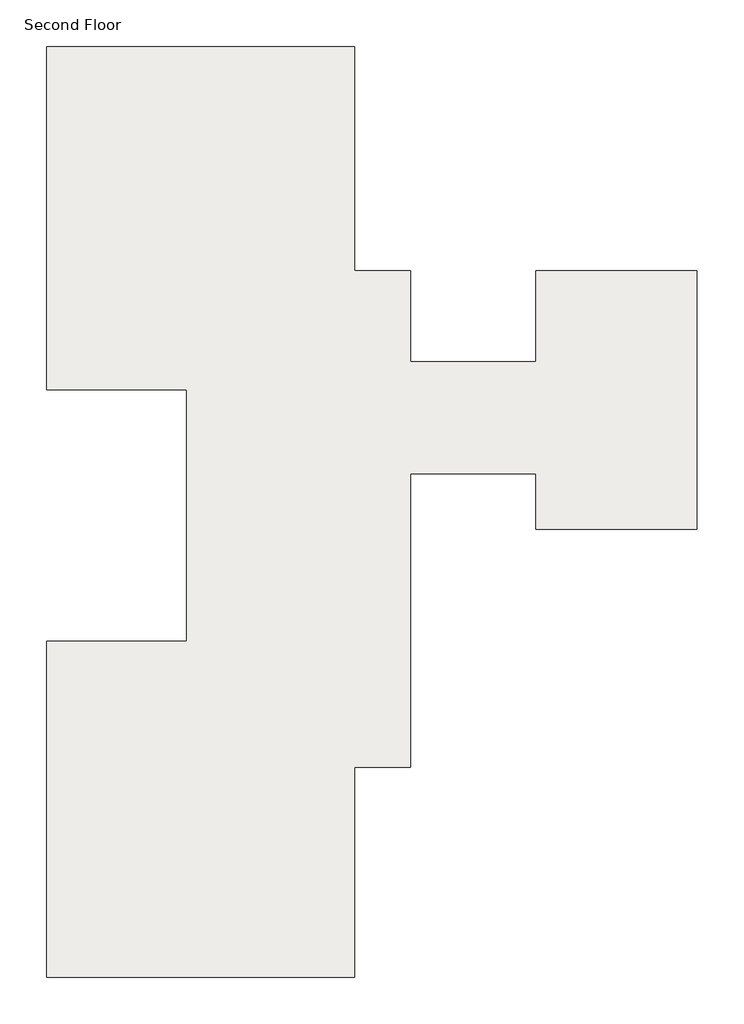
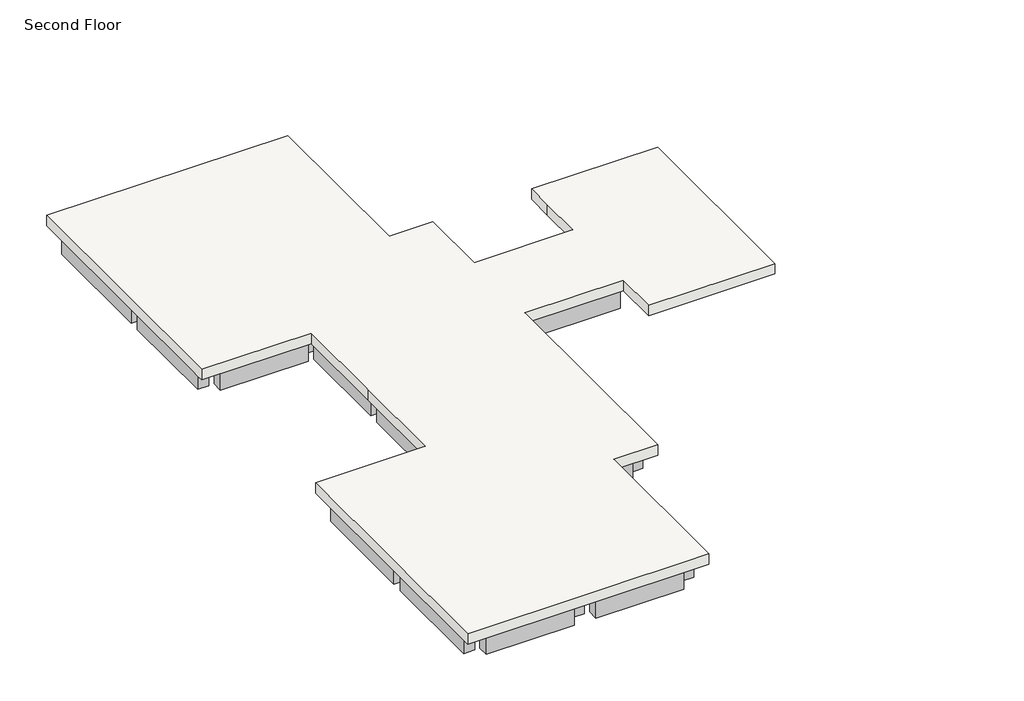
# One storey: 37 beams, 1 slab.
"""IFC4 building model written with IfcOpenShell, lengths in millimetres."""

from ifc_helpers import new_model, si_unit, frame, origin, place, context, project, spatial, polyline, outline, extrude, faceted_brep, element, save

model = new_model("IFC4")

# Units and contexts
model_context = context("Model", 3, world=origin())
ifc_project = project(units=[si_unit("LENGTHUNIT", "METRE", prefix="MILLI")], contexts=[model_context])

# Site, building, storey
site = spatial("IfcSite", under=ifc_project)
building = spatial("IfcBuilding", under=site)
storey = spatial("IfcBuildingStorey", under=building, Name="Second Floor", Elevation=3810.0)

# Beams
placement = place(None, origin())
element("IfcBeam", 1, ObjectType="Concrete-Rectangular Beam : 12 x 24", at=placement, inside=storey, context=model_context, shape_type="SweptSolid", body=[
    extrude(outline(polyline([(-12629.5554735, 14646.9867088), (-12629.5554735, 14342.1867088), (-15067.9554735, 14342.1867088), (-15067.9554735, 14646.9867088), (-12629.5554735, 14646.9867088)])), frame((0.0, 0.0, 2895.6), z_axis=(0.0, 0.0, 1.0), x_axis=(1.0, 0.0, 0.0)), (0.0, 0.0, 1.0), 609.6),
])
element("IfcBeam", 2, ObjectType="Concrete-Rectangular Beam : 12 x 24", at=placement, inside=storey, context=model_context, shape_type="SweptSolid", body=[
    extrude(outline(polyline([(-9581.5554735, 14646.9867088), (-9581.5554735, 14342.1867088), (-12019.9554735, 14342.1867088), (-12019.9554735, 14646.9867088), (-9581.5554735, 14646.9867088)])), frame((0.0, 0.0, 2895.6), z_axis=(0.0, 0.0, 1.0), x_axis=(1.0, 0.0, 0.0)), (0.0, 0.0, 1.0), 609.6),
])
element("IfcBeam", 3, ObjectType="Concrete-Rectangular Beam : 12 x 24", at=placement, inside=storey, context=model_context, shape_type="SweptSolid", body=[
    extrude(outline(polyline([(-15525.1554735, 14342.1867088), (-15220.3554735, 14342.1867088), (-15220.3554735, 10989.3867088), (-15525.1554735, 10989.3867088), (-15525.1554735, 14342.1867088)])), frame((0.0, 0.0, 2895.6), z_axis=(0.0, 0.0, 1.0), x_axis=(1.0, 0.0, 0.0)), (0.0, 0.0, 1.0), 609.6),
])
element("IfcBeam", 4, ObjectType="Concrete-Rectangular Beam : 12 x 24", at=placement, inside=storey, context=model_context, shape_type="SweptSolid", body=[
    extrude(outline(polyline([(-12629.5554735, 10989.3867088), (-12629.5554735, 10684.5867088), (-15067.9554735, 10684.5867088), (-15067.9554735, 10989.3867088), (-12629.5554735, 10989.3867088)])), frame((0.0, 0.0, 2895.6), z_axis=(0.0, 0.0, 1.0), x_axis=(1.0, 0.0, 0.0)), (0.0, 0.0, 1.0), 609.6),
])
element("IfcBeam", 5, ObjectType="Concrete-Rectangular Beam : 12 x 24", at=placement, inside=storey, context=model_context, shape_type="SweptSolid", body=[
    extrude(outline(polyline([(-12019.9554735, 10684.5867088), (-12019.9554735, 10989.3867088), (-9581.5554735, 10989.3867088), (-9581.5554735, 10684.5867088), (-12019.9554735, 10684.5867088)])), frame((0.0, 0.0, 2895.6), z_axis=(0.0, 0.0, 1.0), x_axis=(1.0, 0.0, 0.0)), (0.0, 0.0, 1.0), 609.6),
])
element("IfcBeam", 6, ObjectType="Concrete-Rectangular Beam : 12 x 24", at=placement, inside=storey, context=model_context, shape_type="SweptSolid", body=[
    extrude(outline(polyline([(-12172.3554735, 10989.3867088), (-12477.1554735, 10989.3867088), (-12477.1554735, 14342.1867088), (-12172.3554735, 14342.1867088), (-12172.3554735, 10989.3867088)])), frame((0.0, 0.0, 2895.6), z_axis=(0.0, 0.0, 1.0), x_axis=(1.0, 0.0, 0.0)), (0.0, 0.0, 1.0), 609.6),
])
element("IfcBeam", 7, ObjectType="Concrete-Rectangular Beam : 12 x 24", at=placement, inside=storey, context=model_context, shape_type="SweptSolid", body=[
    extrude(outline(polyline([(-9124.3554735, 10989.3867088), (-9429.1554735, 10989.3867088), (-9429.1554735, 14342.1867088), (-9124.3554735, 14342.1867088), (-9124.3554735, 10989.3867088)])), frame((0.0, 0.0, 2895.6), z_axis=(0.0, 0.0, 1.0), x_axis=(1.0, 0.0, 0.0)), (0.0, 0.0, 1.0), 609.6),
])
element("IfcBeam", 8, ObjectType="Concrete-Rectangular Beam : 12 x 24", at=placement, inside=storey, context=model_context, shape_type="Brep", body=[
    faceted_brep([(-9124.3554735, 10684.5867088, 3505.2), (-9429.1554735, 10684.5867088, 3505.2), (-9429.1554735, 9465.3867088, 3505.2), (-9124.3554735, 9465.3867088, 3505.2), (-9124.3554735, 9770.1867088, 3505.2), (-9429.1554735, 10684.5867088, 2895.6), (-9429.1554735, 9465.3867088, 2895.6), (-9124.3554735, 10684.5867088, 2895.6), (-9124.3554735, 9770.1867088, 2895.6), (-9124.3554735, 9465.3867088, 2895.6)], [[[0, 1, 2, 3, 4]], [[1, 5, 6, 2]], [[5, 7, 8, 9, 6]], [[7, 0, 4, 3, 9, 8]], [[0, 7, 5, 1]], [[3, 2, 6, 9]]]),
])
element("IfcBeam", 9, ObjectType="Concrete-Rectangular Beam : 12 x 24", at=placement, inside=storey, context=model_context, shape_type="SweptSolid", body=[
    extrude(outline(polyline([(-8362.3554735, 9770.1867088), (-8362.3554735, 9465.3867088), (-9124.3554735, 9465.3867088), (-9124.3554735, 9770.1867088), (-8362.3554735, 9770.1867088)])), frame((0.0, 0.0, 2895.6), z_axis=(0.0, 0.0, 1.0), x_axis=(1.0, 0.0, 0.0)), (0.0, 0.0, 1.0), 609.6),
])
element("IfcBeam", 10, ObjectType="Concrete-Rectangular Beam : 12 x 24", at=placement, inside=storey, context=model_context, shape_type="SweptSolid", body=[
    extrude(outline(polyline([(-7905.1554735, 7788.9867088), (-8209.9554735, 7788.9867088), (-8209.9554735, 9465.3867088), (-7905.1554735, 9465.3867088), (-7905.1554735, 7788.9867088)])), frame((0.0, 0.0, 2895.6), z_axis=(0.0, 0.0, 1.0), x_axis=(1.0, 0.0, 0.0)), (0.0, 0.0, 1.0), 609.6),
])
element("IfcBeam", 11, ObjectType="Concrete-Rectangular Beam : 12 x 24", at=placement, inside=storey, context=model_context, shape_type="SweptSolid", body=[
    extrude(outline(polyline([(-7752.7554735, 7484.1867088), (-7752.7554735, 7788.9867088), (-5009.5554735, 7788.9867088), (-5009.5554735, 7484.1867088), (-7752.7554735, 7484.1867088)])), frame((0.0, 0.0, 2895.6), z_axis=(0.0, 0.0, 1.0), x_axis=(1.0, 0.0, 0.0)), (0.0, 0.0, 1.0), 609.6),
])
element("IfcBeam", 12, ObjectType="Concrete-Rectangular Beam : 12 x 24", at=placement, inside=storey, context=model_context, shape_type="SweptSolid", body=[
    extrude(outline(polyline([(-2113.9554735, 7788.9867088), (-2113.9554735, 7484.1867088), (-4399.9554735, 7484.1867088), (-4399.9554735, 7788.9867088), (-2113.9554735, 7788.9867088)])), frame((0.0, 0.0, 2895.6), z_axis=(0.0, 0.0, 1.0), x_axis=(1.0, 0.0, 0.0)), (0.0, 0.0, 1.0), 609.6),
])
element("IfcBeam", 13, ObjectType="Concrete-Rectangular Beam : 12 x 24", at=placement, inside=storey, context=model_context, shape_type="SweptSolid", body=[
    extrude(outline(polyline([(-4399.9554735, 5655.3867088), (-4399.9554735, 5960.1867088), (-2113.9554735, 5960.1867088), (-2113.9554735, 5655.3867088), (-4399.9554735, 5655.3867088)])), frame((0.0, 0.0, 2895.6), z_axis=(0.0, 0.0, 1.0), x_axis=(1.0, 0.0, 0.0)), (0.0, 0.0, 1.0), 609.6),
])
element("IfcBeam", 14, ObjectType="Concrete-Rectangular Beam : 12 x 24", at=placement, inside=storey, context=model_context, shape_type="SweptSolid", body=[
    extrude(outline(polyline([(-5009.5554735, 5960.1867088), (-5009.5554735, 5655.3867088), (-7905.1554735, 5655.3867088), (-7905.1554735, 5960.1867088), (-5009.5554735, 5960.1867088)])), frame((0.0, 0.0, 2895.6), z_axis=(0.0, 0.0, 1.0), x_axis=(1.0, 0.0, 0.0)), (0.0, 0.0, 1.0), 609.6),
])
element("IfcBeam", 15, ObjectType="Concrete-Rectangular Beam : 12 x 24", at=placement, inside=storey, context=model_context, shape_type="Brep", body=[
    faceted_brep([(-8209.9554735, 4740.9867088, 3505.2), (-7905.1554735, 4740.9867088, 3505.2), (-7905.1554735, 5655.3867088, 3505.2), (-7905.1554735, 5960.1867088, 3505.2), (-7905.1554735, 7484.1867088, 3505.2), (-8209.9554735, 7484.1867088, 3505.2), (-8209.9554735, 4740.9867088, 2895.6), (-8209.9554735, 7484.1867088, 2895.6), (-7905.1554735, 4740.9867088, 2895.6), (-7905.1554735, 7484.1867088, 2895.6), (-7905.1554735, 5960.1867088, 2895.6), (-7905.1554735, 5655.3867088, 2895.6)], [[[0, 1, 2, 3, 4, 5]], [[6, 0, 5, 7]], [[8, 6, 7, 9, 10, 11]], [[1, 8, 11, 10, 9, 4, 3, 2]], [[4, 9, 7, 5]], [[1, 0, 6, 8]]]),
])
element("IfcBeam", 16, ObjectType="Concrete-Rectangular Beam : 12 x 24", at=placement, inside=storey, context=model_context, shape_type="SweptSolid", body=[
    extrude(outline(polyline([(-12629.5554735, -5012.6132912), (-12629.5554735, -5317.4132912), (-15067.9554735, -5317.4132912), (-15067.9554735, -5012.6132912), (-12629.5554735, -5012.6132912)])), frame((0.0, 0.0, 2895.6), z_axis=(0.0, 0.0, 1.0), x_axis=(1.0, 0.0, 0.0)), (0.0, 0.0, 1.0), 609.6),
])
element("IfcBeam", 17, ObjectType="Concrete-Rectangular Beam : 12 x 24", at=placement, inside=storey, context=model_context, shape_type="SweptSolid", body=[
    extrude(outline(polyline([(-15525.1554735, -1964.6132912), (-15220.3554735, -1964.6132912), (-15220.3554735, -5012.6132912), (-15525.1554735, -5012.6132912), (-15525.1554735, -1964.6132912)])), frame((0.0, 0.0, 2895.6), z_axis=(0.0, 0.0, 1.0), x_axis=(1.0, 0.0, 0.0)), (0.0, 0.0, 1.0), 609.6),
])
element("IfcBeam", 18, ObjectType="Concrete-Rectangular Beam : 12 x 24", at=placement, inside=storey, context=model_context, shape_type="SweptSolid", body=[
    extrude(outline(polyline([(-15067.9554735, -1964.6132912), (-15067.9554735, -1659.8132912), (-12629.5554735, -1659.8132912), (-12629.5554735, -1964.6132912), (-15067.9554735, -1964.6132912)])), frame((0.0, 0.0, 2895.6), z_axis=(0.0, 0.0, 1.0), x_axis=(1.0, 0.0, 0.0)), (0.0, 0.0, 1.0), 609.6),
])
element("IfcBeam", 19, ObjectType="Concrete-Rectangular Beam : 12 x 24", at=placement, inside=storey, context=model_context, shape_type="SweptSolid", body=[
    extrude(outline(polyline([(-12172.3554735, -5012.6132912), (-12477.1554735, -5012.6132912), (-12477.1554735, -1964.6132912), (-12172.3554735, -1964.6132912), (-12172.3554735, -5012.6132912)])), frame((0.0, 0.0, 2895.6), z_axis=(0.0, 0.0, 1.0), x_axis=(1.0, 0.0, 0.0)), (0.0, 0.0, 1.0), 609.6),
])
element("IfcBeam", 20, ObjectType="Concrete-Rectangular Beam : 12 x 24", at=placement, inside=storey, context=model_context, shape_type="SweptSolid", body=[
    extrude(outline(polyline([(-9581.5554735, -5012.6132912), (-9581.5554735, -5317.4132912), (-12019.9554735, -5317.4132912), (-12019.9554735, -5012.6132912), (-9581.5554735, -5012.6132912)])), frame((0.0, 0.0, 2895.6), z_axis=(0.0, 0.0, 1.0), x_axis=(1.0, 0.0, 0.0)), (0.0, 0.0, 1.0), 609.6),
])
element("IfcBeam", 21, ObjectType="Concrete-Rectangular Beam : 12 x 24", at=placement, inside=storey, context=model_context, shape_type="SweptSolid", body=[
    extrude(outline(polyline([(-9124.3554735, -5012.6132912), (-9429.1554735, -5012.6132912), (-9429.1554735, -1964.6132912), (-9124.3554735, -1964.6132912), (-9124.3554735, -5012.6132912)])), frame((0.0, 0.0, 2895.6), z_axis=(0.0, 0.0, 1.0), x_axis=(1.0, 0.0, 0.0)), (0.0, 0.0, 1.0), 609.6),
])
element("IfcBeam", 22, ObjectType="Concrete-Rectangular Beam : 12 x 24", at=placement, inside=storey, context=model_context, shape_type="SweptSolid", body=[
    extrude(outline(polyline([(-9581.5554735, -1659.8132912), (-9581.5554735, -1964.6132912), (-12019.9554735, -1964.6132912), (-12019.9554735, -1659.8132912), (-9581.5554735, -1659.8132912)])), frame((0.0, 0.0, 2895.6), z_axis=(0.0, 0.0, 1.0), x_axis=(1.0, 0.0, 0.0)), (0.0, 0.0, 1.0), 609.6),
])
element("IfcBeam", 23, ObjectType="Concrete-Rectangular Beam : 12 x 24", at=placement, inside=storey, context=model_context, shape_type="Brep", body=[
    faceted_brep([(-8362.3554735, -745.4132912, 3505.2), (-8362.3554735, -440.6132912, 3505.2), (-9429.1554735, -440.6132912, 3505.2), (-9429.1554735, -745.4132912, 3505.2), (-9124.3554735, -745.4132912, 3505.2), (-8362.3554735, -440.6132912, 2895.6), (-9429.1554735, -440.6132912, 2895.6), (-8362.3554735, -745.4132912, 2895.6), (-9124.3554735, -745.4132912, 2895.6), (-9429.1554735, -745.4132912, 2895.6)], [[[0, 1, 2, 3, 4]], [[1, 5, 6, 2]], [[5, 7, 8, 9, 6]], [[7, 0, 4, 3, 9, 8]], [[0, 7, 5, 1]], [[3, 2, 6, 9]]]),
])
element("IfcBeam", 24, ObjectType="Concrete-Rectangular Beam : 12 x 24", at=placement, inside=storey, context=model_context, shape_type="SweptSolid", body=[
    extrude(outline(polyline([(-9124.3554735, -1659.8132912), (-9429.1554735, -1659.8132912), (-9429.1554735, -745.4132912), (-9124.3554735, -745.4132912), (-9124.3554735, -1659.8132912)])), frame((0.0, 0.0, 2895.6), z_axis=(0.0, 0.0, 1.0), x_axis=(1.0, 0.0, 0.0)), (0.0, 0.0, 1.0), 609.6),
])
element("IfcBeam", 25, ObjectType="Concrete-Rectangular Beam : 12 x 24", at=placement, inside=storey, context=model_context, shape_type="SweptSolid", body=[
    extrude(outline(polyline([(-8209.9554735, 1388.1867088), (-7905.1554735, 1388.1867088), (-7905.1554735, -440.6132912), (-8209.9554735, -440.6132912), (-8209.9554735, 1388.1867088)])), frame((0.0, 0.0, 2895.6), z_axis=(0.0, 0.0, 1.0), x_axis=(1.0, 0.0, 0.0)), (0.0, 0.0, 1.0), 609.6),
])
element("IfcBeam", 26, ObjectType="Concrete-Rectangular Beam : 12 x 24", at=placement, inside=storey, context=model_context, shape_type="SweptSolid", body=[
    extrude(outline(polyline([(-7905.1554735, 1692.9867088), (-8209.9554735, 1692.9867088), (-8209.9554735, 4436.1867088), (-7905.1554735, 4436.1867088), (-7905.1554735, 1692.9867088)])), frame((0.0, 0.0, 2895.6), z_axis=(0.0, 0.0, 1.0), x_axis=(1.0, 0.0, 0.0)), (0.0, 0.0, 1.0), 609.6),
])
element("IfcBeam", 27, ObjectType="Concrete-Rectangular Beam : 12 x 24", at=placement, inside=storey, context=model_context, shape_type="SweptSolid", body=[
    extrude(outline(polyline([(-15525.1554735, 1388.1867088), (-15220.3554735, 1388.1867088), (-15220.3554735, -1659.8132912), (-15525.1554735, -1659.8132912), (-15525.1554735, 1388.1867088)])), frame((0.0, 0.0, 2895.6), z_axis=(0.0, 0.0, 1.0), x_axis=(1.0, 0.0, 0.0)), (0.0, 0.0, 1.0), 609.6),
])
element("IfcBeam", 28, ObjectType="Concrete-Rectangular Beam : 12 x 24", at=placement, inside=storey, context=model_context, shape_type="SweptSolid", body=[
    extrude(outline(polyline([(-12629.5554735, 1692.9867088), (-12629.5554735, 1388.1867088), (-15067.9554735, 1388.1867088), (-15067.9554735, 1692.9867088), (-12629.5554735, 1692.9867088)])), frame((0.0, 0.0, 2895.6), z_axis=(0.0, 0.0, 1.0), x_axis=(1.0, 0.0, 0.0)), (0.0, 0.0, 1.0), 609.6),
])
element("IfcBeam", 29, ObjectType="Concrete-Rectangular Beam : 12 x 24", at=placement, inside=storey, context=model_context, shape_type="SweptSolid", body=[
    extrude(outline(polyline([(-12172.3554735, -1659.8132912), (-12477.1554735, -1659.8132912), (-12477.1554735, 1388.1867088), (-12172.3554735, 1388.1867088), (-12172.3554735, -1659.8132912)])), frame((0.0, 0.0, 2895.6), z_axis=(0.0, 0.0, 1.0), x_axis=(1.0, 0.0, 0.0)), (0.0, 0.0, 1.0), 609.6),
])
element("IfcBeam", 30, ObjectType="Concrete-Rectangular Beam : 12 x 24", at=placement, inside=storey, context=model_context, shape_type="SweptSolid", body=[
    extrude(outline(polyline([(-12019.9554735, 1388.1867088), (-12019.9554735, 1692.9867088), (-8362.3554735, 1692.9867088), (-8362.3554735, 1388.1867088), (-12019.9554735, 1388.1867088)])), frame((0.0, 0.0, 2895.6), z_axis=(0.0, 0.0, 1.0), x_axis=(1.0, 0.0, 0.0)), (0.0, 0.0, 1.0), 609.6),
])
element("IfcBeam", 31, ObjectType="Concrete-Rectangular Beam : 12 x 24", at=placement, inside=storey, context=model_context, shape_type="SweptSolid", body=[
    extrude(outline(polyline([(-12172.3554735, 1692.9867088), (-12477.1554735, 1692.9867088), (-12477.1554735, 4436.1867088), (-12172.3554735, 4436.1867088), (-12172.3554735, 1692.9867088)])), frame((0.0, 0.0, 2895.6), z_axis=(0.0, 0.0, 1.0), x_axis=(1.0, 0.0, 0.0)), (0.0, 0.0, 1.0), 609.6),
])
element("IfcBeam", 32, ObjectType="Concrete-Rectangular Beam : 12 x 24", at=placement, inside=storey, context=model_context, shape_type="SweptSolid", body=[
    extrude(outline(polyline([(-12019.9554735, 4436.1867088), (-12019.9554735, 4740.9867088), (-8362.3554735, 4740.9867088), (-8362.3554735, 4436.1867088), (-12019.9554735, 4436.1867088)])), frame((0.0, 0.0, 2895.6), z_axis=(0.0, 0.0, 1.0), x_axis=(1.0, 0.0, 0.0)), (0.0, 0.0, 1.0), 609.6),
])
element("IfcBeam", 33, ObjectType="Concrete-Rectangular Beam : 12 x 24", at=placement, inside=storey, context=model_context, shape_type="SweptSolid", body=[
    extrude(outline(polyline([(-15220.3554735, 7788.9867088), (-15525.1554735, 7788.9867088), (-15525.1554735, 10684.5867088), (-15220.3554735, 10684.5867088), (-15220.3554735, 7788.9867088)])), frame((0.0, 0.0, 2895.6), z_axis=(0.0, 0.0, 1.0), x_axis=(1.0, 0.0, 0.0)), (0.0, 0.0, 1.0), 609.6),
])
element("IfcBeam", 34, ObjectType="Concrete-Rectangular Beam : 12 x 24", at=placement, inside=storey, context=model_context, shape_type="SweptSolid", body=[
    extrude(outline(polyline([(-12172.3554735, 7788.9867088), (-12477.1554735, 7788.9867088), (-12477.1554735, 10684.5867088), (-12172.3554735, 10684.5867088), (-12172.3554735, 7788.9867088)])), frame((0.0, 0.0, 2895.6), z_axis=(0.0, 0.0, 1.0), x_axis=(1.0, 0.0, 0.0)), (0.0, 0.0, 1.0), 609.6),
])
element("IfcBeam", 35, ObjectType="Concrete-Rectangular Beam : 12 x 24", at=placement, inside=storey, context=model_context, shape_type="SweptSolid", body=[
    extrude(outline(polyline([(-12019.9554735, 7484.1867088), (-12019.9554735, 7788.9867088), (-8362.3554735, 7788.9867088), (-8362.3554735, 7484.1867088), (-12019.9554735, 7484.1867088)])), frame((0.0, 0.0, 2895.6), z_axis=(0.0, 0.0, 1.0), x_axis=(1.0, 0.0, 0.0)), (0.0, 0.0, 1.0), 609.6),
])
element("IfcBeam", 36, ObjectType="Concrete-Rectangular Beam : 12 x 24", at=placement, inside=storey, context=model_context, shape_type="SweptSolid", body=[
    extrude(outline(polyline([(-12477.1554735, 7484.1867088), (-12172.3554735, 7484.1867088), (-12172.3554735, 4740.9867088), (-12477.1554735, 4740.9867088), (-12477.1554735, 7484.1867088)])), frame((0.0, 0.0, 2895.6), z_axis=(0.0, 0.0, 1.0), x_axis=(1.0, 0.0, 0.0)), (0.0, 0.0, 1.0), 609.6),
])
element("IfcBeam", 37, ObjectType="Concrete-Rectangular Beam : 12 x 24", at=placement, inside=storey, context=model_context, shape_type="SweptSolid", body=[
    extrude(outline(polyline([(-15067.9554735, 7484.1867088), (-15067.9554735, 7788.9867088), (-12629.5554735, 7788.9867088), (-12629.5554735, 7484.1867088), (-15067.9554735, 7484.1867088)])), frame((0.0, 0.0, 2895.6), z_axis=(0.0, 0.0, 1.0), x_axis=(1.0, 0.0, 0.0)), (0.0, 0.0, 1.0), 609.6),
])

# Slab
element("IfcSlab", 38, ObjectType="Generic - 12\"", at=placement, inside=storey, context=model_context, shape_type="Brep", body=[
    faceted_brep([(-8971.9554735, 14799.3867088, 3505.2), (-8971.9554735, 14646.9867088, 3505.2), (-8971.9554735, 14342.1867088, 3505.2), (-8971.9554735, 10989.3867088, 3505.2), (-8971.9554735, 10684.5867088, 3505.2), (-8971.9554735, 9922.5867088, 3505.2), (-7752.7554735, 9922.5867088, 3505.2), (-7752.7554735, 9770.1867088, 3505.2), (-7752.7554735, 9465.3867088, 3505.2), (-7752.7554735, 7941.3867088, 3505.2), (-5009.5554735, 7941.3867088, 3505.2), (-5009.5554735, 9160.5867088, 3505.2), (-5009.5554735, 9922.5867088, 3505.2), (-1504.3554735, 9922.5867088, 3505.2), (-1504.3554735, 7788.9867088, 3505.2), (-1504.3554735, 7484.1867088, 3505.2), (-1504.3554735, 5960.1867088, 3505.2), (-1504.3554735, 5655.3867088, 3505.2), (-1504.3554735, 4283.7867088, 3505.2), (-5009.5554735, 4283.7867088, 3505.2), (-5009.5554735, 5502.9867088, 3505.2), (-7752.7554735, 5502.9867088, 3505.2), (-7752.7554735, 4740.9867088, 3505.2), (-7752.7554735, 4436.1867088, 3505.2), (-7752.7554735, 1692.9867088, 3505.2), (-7752.7554735, 1388.1867088, 3505.2), (-7752.7554735, -440.6132912, 3505.2), (-7752.7554735, -745.4132912, 3505.2), (-7752.7554735, -897.8132912, 3505.2), (-8971.9554735, -897.8132912, 3505.2), (-8971.9554735, -1659.8132912, 3505.2), (-8971.9554735, -1964.6132912, 3505.2), (-8971.9554735, -5012.6132912, 3505.2), (-8971.9554735, -5317.4132912, 3505.2), (-8971.9554735, -5469.8132912, 3505.2), (-15677.5554735, -5469.8132912, 3505.2), (-15677.5554735, -5317.4132912, 3505.2), (-15677.5554735, -5012.6132912, 3505.2), (-15677.5554735, -1964.6132912, 3505.2), (-15677.5554735, -1659.8132912, 3505.2), (-15677.5554735, 1388.1867088, 3505.2), (-15677.5554735, 1692.9867088, 3505.2), (-15677.5554735, 1845.3867088, 3505.2), (-12629.5554735, 1845.3867088, 3505.2), (-12629.5554735, 4436.1867088, 3505.2), (-12629.5554735, 4588.5867088, 3505.2), (-12629.5554735, 4740.9867088, 3505.2), (-12629.5554735, 7331.7867088, 3505.2), (-15677.5554735, 7331.7867088, 3505.2), (-15677.5554735, 7484.1867088, 3505.2), (-15677.5554735, 7788.9867088, 3505.2), (-15677.5554735, 10684.5867088, 3505.2), (-15677.5554735, 10989.3867088, 3505.2), (-15677.5554735, 14342.1867088, 3505.2), (-15677.5554735, 14646.9867088, 3505.2), (-15677.5554735, 14799.3867088, 3505.2), (-8971.9554735, 14799.3867088, 3810.0), (-15677.5554735, 14799.3867088, 3810.0), (-15677.5554735, 7331.7867088, 3810.0), (-12629.5554735, 7331.7867088, 3810.0), (-12629.5554735, 4588.5867088, 3810.0), (-12629.5554735, 1845.3867088, 3810.0), (-15677.5554735, 1845.3867088, 3810.0), (-15677.5554735, -5469.8132912, 3810.0), (-8971.9554735, -5469.8132912, 3810.0), (-8971.9554735, -897.8132912, 3810.0), (-7752.7554735, -897.8132912, 3810.0), (-7752.7554735, 5502.9867088, 3810.0), (-5009.5554735, 5502.9867088, 3810.0), (-5009.5554735, 4283.7867088, 3810.0), (-1504.3554735, 4283.7867088, 3810.0), (-1504.3554735, 9922.5867088, 3810.0), (-5009.5554735, 9922.5867088, 3810.0), (-5009.5554735, 9160.5867088, 3810.0), (-5009.5554735, 7941.3867088, 3810.0), (-7752.7554735, 7941.3867088, 3810.0), (-7752.7554735, 9922.5867088, 3810.0), (-8971.9554735, 9922.5867088, 3810.0)], [[[0, 1, 2, 3, 4, 5, 6, 7, 8, 9, 10, 11, 12, 13, 14, 15, 16, 17, 18, 19, 20, 21, 22, 23, 24, 25, 26, 27, 28, 29, 30, 31, 32, 33, 34, 35, 36, 37, 38, 39, 40, 41, 42, 43, 44, 45, 46, 47, 48, 49, 50, 51, 52, 53, 54, 55]], [[56, 57, 58, 59, 60, 61, 62, 63, 64, 65, 66, 67, 68, 69, 70, 71, 72, 73, 74, 75, 76, 77]], [[5, 4, 3, 2, 1, 0, 56, 77]], [[6, 5, 77, 76]], [[9, 8, 7, 6, 76, 75]], [[10, 9, 75, 74]], [[11, 10, 74, 73]], [[12, 11, 73, 72]], [[13, 12, 72, 71]], [[18, 17, 16, 15, 14, 13, 71, 70]], [[19, 18, 70, 69]], [[20, 19, 69, 68]], [[21, 20, 68, 67]], [[28, 27, 26, 25, 24, 23, 22, 21, 67, 66]], [[29, 28, 66, 65]], [[34, 33, 32, 31, 30, 29, 65, 64]], [[35, 34, 64, 63]], [[42, 41, 40, 39, 38, 37, 36, 35, 63, 62]], [[43, 42, 62, 61]], [[45, 44, 43, 61, 60]], [[47, 46, 45, 60, 59]], [[48, 47, 59, 58]], [[55, 54, 53, 52, 51, 50, 49, 48, 58, 57]], [[0, 55, 57, 56]]]),
])

save(model, "model.ifc")
